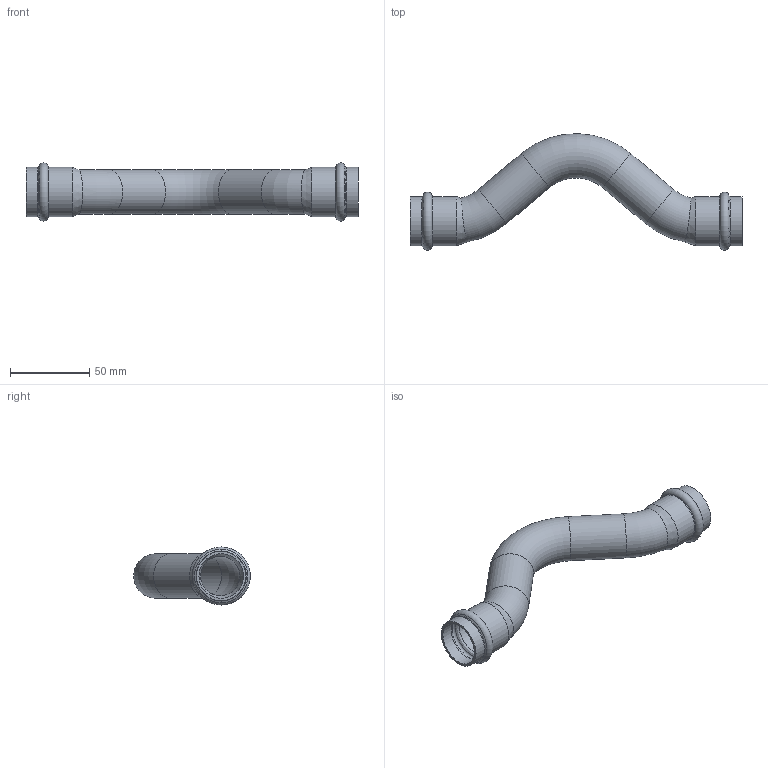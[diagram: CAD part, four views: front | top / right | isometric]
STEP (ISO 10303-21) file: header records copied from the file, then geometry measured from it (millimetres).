
FILE_DESCRIPTION((''),'2;1');
FILE_NAME('G:\Technics\CAD\Bauteile\028\6908528(2).stp','2008-02-25T14:36:12',('herberg'),(''),'Autodesk Inventor 2008','Autodesk Inventor 2008','');
FILE_SCHEMA(('AUTOMOTIVE_DESIGN { 1 0 10303 214 1 1 1 1 }'));
Length unit declared in the file: millimetre
Products named in the file (1): 6908528(2)
Bounding box: 210 x 73.8 x 36.79 mm (x, y, z)
Volume: 31415.8 mm3; surface area: 42166.5 mm2
Topology: 1 solids, 1 shells, 40 faces, 88 edges, 50 vertices
Faces by surface type: cylinder 12, torus 10, bspline 8, cone 8, plane 2
Full cylindrical faces by diameter (mm): 25 x2, 28 x2, 28.2 x4, 31.2 x4
Entity records: 1282 total; most frequent: CARTESIAN_POINT 613, DIRECTION 138, ORIENTED_EDGE 80, EDGE_LOOP 80, AXIS2_PLACEMENT_3D 69, VERTEX_POINT 40, EDGE_CURVE 40, FACE_OUTER_BOUND 40
